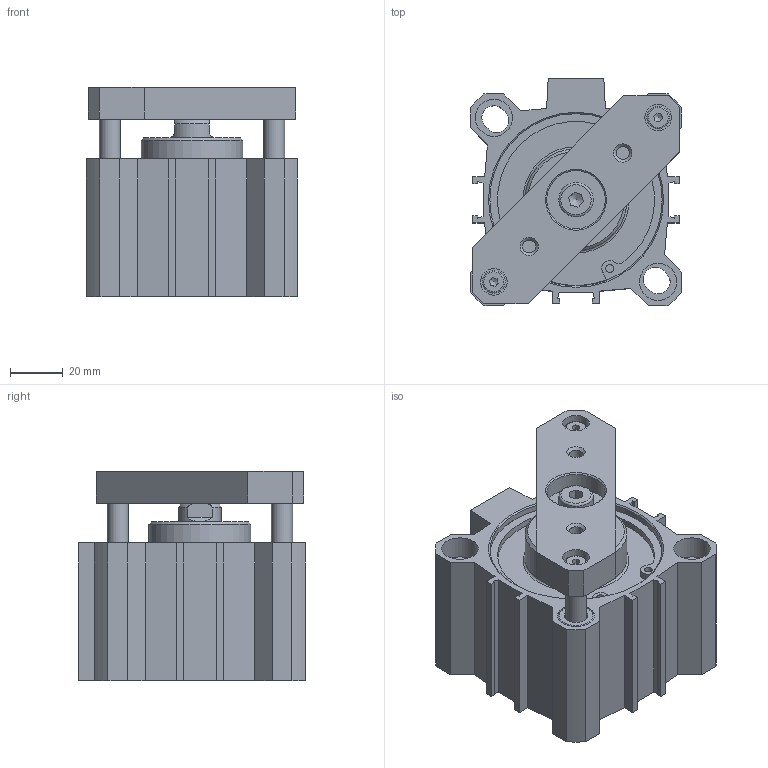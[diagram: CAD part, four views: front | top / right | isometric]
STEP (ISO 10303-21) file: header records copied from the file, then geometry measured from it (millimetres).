
FILE_DESCRIPTION(/* description */ ('Unknown'),/* implementation_level */ '2;1');
FILE_NAME(/* name */ 'FINT 63_10',/* time_stamp */ '2026-05-12T11:06:51+02:00',/* author */ ('Unknown'),/* organization */ ('Unknown'),/* preprocessor_version */ 'ST-DEVELOPER v18.102',/* originating_system */ 'Solid Edge',/* authorisation */ 'Unknown');
FILE_SCHEMA (('AUTOMOTIVE_DESIGN {1 0 10303 214 3 1 1}'));
Length unit declared in the file: millimetre
Products named in the file (7): FINT 63_10; Führungsstange; Profilrohr; Platte; Kolbenstange; Kit_1; Kit_2
Assembly tree (7 placements, depth 2):
  FINT 63_10
    Führungsstange  x2
    Profilrohr
    Platte
    Kolbenstange
    Kit_1
    Kit_2
Bounding box: 80 x 86 x 79 mm (x, y, z)
Volume: 259861.6 mm3; surface area: 96098.7 mm2
Topology: 9 solids, 10 shells, 323 faces, 760 edges, 487 vertices
Faces by surface type: plane 170, cylinder 88, cone 51, torus 14
Full cylindrical faces by diameter (mm): 3 x4, 3.2 x2, 4.134 x2, 4.917 x2, 5 x2, 5.8 x2, 6.647 x1, 8 x4, 8.25 x1, 8.5 x2, 8.566 x4, 10 x2, 13 x1, 13.8 x2, 14 x4, 16 x2, 16.54 x1, 17.7 x1, 18 x1, 20.5 x1, 22 x1, 38.5 x1, 47 x1, 63 x2, 64.7 x4, 65.1 x2, 68.2 x2
Entity records: 10527 total; most frequent: CARTESIAN_POINT 1584, DIRECTION 1454, ORIENTED_EDGE 1214, EDGE_CURVE 607, AXIS2_PLACEMENT_3D 552, FACE_BOUND 487, EDGE_LOOP 482, VERTEX_POINT 456
